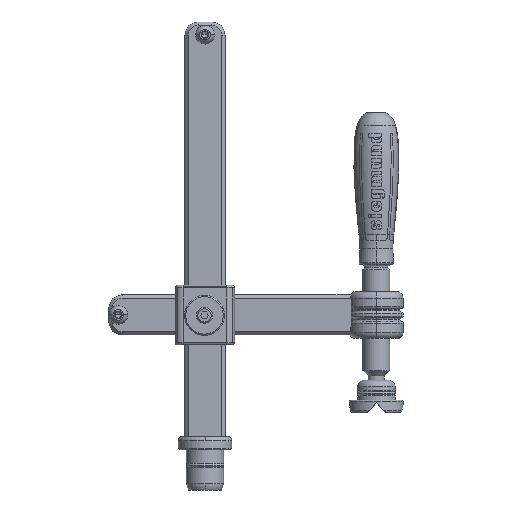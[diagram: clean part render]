
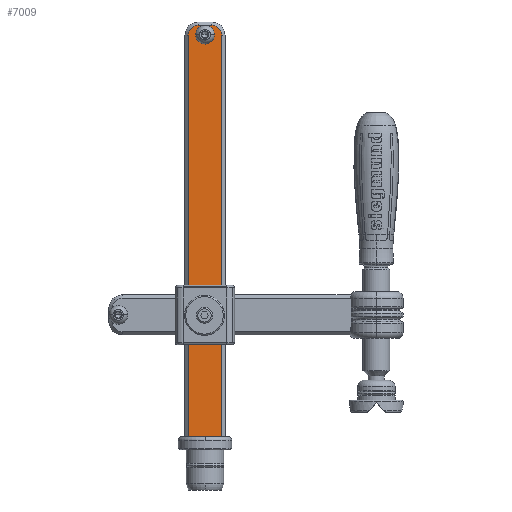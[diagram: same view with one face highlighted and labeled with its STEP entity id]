
A CAD part, front view. The second image highlights one B-rep face of the part: STEP entity #7009.
In plain terms, the highlighted planar face has unit normal (0, -1, 0).
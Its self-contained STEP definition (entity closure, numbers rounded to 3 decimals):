
#7009=ADVANCED_FACE('',(#15266,#15267),#15268,.T.);
#15266=FACE_OUTER_BOUND('',#49531,.T.);
#15267=FACE_BOUND('',#49532,.T.);
#15268=PLANE('',#49533);
#49531=EDGE_LOOP('',(#82765,#82766,#82767,#82768,#82769,#82770,#82771,#82772));
#49532=EDGE_LOOP('',(#82773,#82774));
#49533=AXIS2_PLACEMENT_3D('',#82775,#82776,#82777);
#82765=ORIENTED_EDGE('',*,*,#100016,.F.);
#82766=ORIENTED_EDGE('',*,*,#100017,.F.);
#82767=ORIENTED_EDGE('',*,*,#100018,.F.);
#82768=ORIENTED_EDGE('',*,*,#100019,.F.);
#82769=ORIENTED_EDGE('',*,*,#100020,.F.);
#82770=ORIENTED_EDGE('',*,*,#98166,.F.);
#82771=ORIENTED_EDGE('',*,*,#100021,.F.);
#82772=ORIENTED_EDGE('',*,*,#100022,.F.);
#82773=ORIENTED_EDGE('',*,*,#100023,.F.);
#82774=ORIENTED_EDGE('',*,*,#100024,.F.);
#82775=CARTESIAN_POINT('',(382.0,73.0,0.));
#82776=DIRECTION('',(0.,-1.0,0.0));
#82777=DIRECTION('',(0.0,0.0,-1.0));
#98166=EDGE_CURVE('',#113226,#113223,#113228,.T.);
#100016=EDGE_CURVE('',#115618,#115619,#115620,.T.);
#100017=EDGE_CURVE('',#115621,#115618,#115622,.T.);
#100018=EDGE_CURVE('',#115623,#115621,#115624,.T.);
#100019=EDGE_CURVE('',#115625,#115623,#115626,.T.);
#100020=EDGE_CURVE('',#113223,#115625,#115627,.T.);
#100021=EDGE_CURVE('',#115628,#113226,#115629,.T.);
#100022=EDGE_CURVE('',#115619,#115628,#115630,.T.);
#100023=EDGE_CURVE('',#115631,#115632,#115633,.T.);
#100024=EDGE_CURVE('',#115632,#115631,#115634,.T.);
#113223=VERTEX_POINT('',#162716);
#113226=VERTEX_POINT('',#162720);
#113228=CIRCLE('',#162723,7.5);
#115618=VERTEX_POINT('',#173246);
#115619=VERTEX_POINT('',#173247);
#115620=LINE('',#173248,#173249);
#115621=VERTEX_POINT('',#173250);
#115622=CIRCLE('',#173251,7.5);
#115623=VERTEX_POINT('',#173252);
#115624=CIRCLE('',#173253,7.5);
#115625=VERTEX_POINT('',#173254);
#115626=LINE('',#173255,#173256);
#115627=CIRCLE('',#173257,7.5);
#115628=VERTEX_POINT('',#173258);
#115629=LINE('',#173259,#173260);
#115630=LINE('',#173261,#173262);
#115631=VERTEX_POINT('',#173263);
#115632=VERTEX_POINT('',#173264);
#115633=CIRCLE('',#173265,5.0);
#115634=CIRCLE('',#173266,5.0);
#162716=CARTESIAN_POINT('',(386.697,73.0,305.303));
#162720=CARTESIAN_POINT('',(384.5,73.0,300.0));
#162723=AXIS2_PLACEMENT_3D('',#190363,#190364,#190365);
#173246=CARTESIAN_POINT('',(409.5,73.0,300.0));
#173247=CARTESIAN_POINT('',(409.5,73.0,0.));
#173248=CARTESIAN_POINT('',(409.5,73.0,0.));
#173249=VECTOR('',#191451,1.0);
#173250=CARTESIAN_POINT('',(407.303,73.0,305.303));
#173251=AXIS2_PLACEMENT_3D('',#191452,#191453,#191454);
#173252=CARTESIAN_POINT('',(402.0,73.0,307.5));
#173253=AXIS2_PLACEMENT_3D('',#191455,#191456,#191457);
#173254=CARTESIAN_POINT('',(392.0,73.0,307.5));
#173255=CARTESIAN_POINT('',(397.0,73.0,307.5));
#173256=VECTOR('',#191458,1.0);
#173257=AXIS2_PLACEMENT_3D('',#191459,#191460,#191461);
#173258=CARTESIAN_POINT('',(384.5,73.0,0.));
#173259=CARTESIAN_POINT('',(384.5,73.0,0.));
#173260=VECTOR('',#191462,1.0);
#173261=CARTESIAN_POINT('',(412.0,73.0,0.));
#173262=VECTOR('',#191463,1.0);
#173263=CARTESIAN_POINT('',(402.0,73.0,300.5));
#173264=CARTESIAN_POINT('',(392.0,73.0,300.5));
#173265=AXIS2_PLACEMENT_3D('',#191464,#191465,#191466);
#173266=AXIS2_PLACEMENT_3D('',#191467,#191468,#191469);
#190363=CARTESIAN_POINT('',(392.0,73.0,300.0));
#190364=DIRECTION('',(0.,1.0,0.0));
#190365=DIRECTION('',(-0.707,0.,0.707));
#191451=DIRECTION('',(-0.0,0.0,-1.0));
#191452=CARTESIAN_POINT('',(402.0,73.0,300.0));
#191453=DIRECTION('',(0.,1.0,0.0));
#191454=DIRECTION('',(0.707,0.,0.707));
#191455=CARTESIAN_POINT('',(402.0,73.0,300.0));
#191456=DIRECTION('',(0.,1.0,0.0));
#191457=DIRECTION('',(0.707,0.,0.707));
#191458=DIRECTION('',(1.0,0.,0.0));
#191459=CARTESIAN_POINT('',(392.0,73.0,300.0));
#191460=DIRECTION('',(0.,1.0,0.0));
#191461=DIRECTION('',(-0.707,0.,0.707));
#191462=DIRECTION('',(0.0,0.0,1.0));
#191463=DIRECTION('',(-1.0,0.,0.0));
#191464=CARTESIAN_POINT('',(397.0,73.0,300.5));
#191465=DIRECTION('',(0.,-1.0,0.0));
#191466=DIRECTION('',(-1.0,0.,0.0));
#191467=CARTESIAN_POINT('',(397.0,73.0,300.5));
#191468=DIRECTION('',(0.,-1.0,0.0));
#191469=DIRECTION('',(-1.0,0.,0.0));
